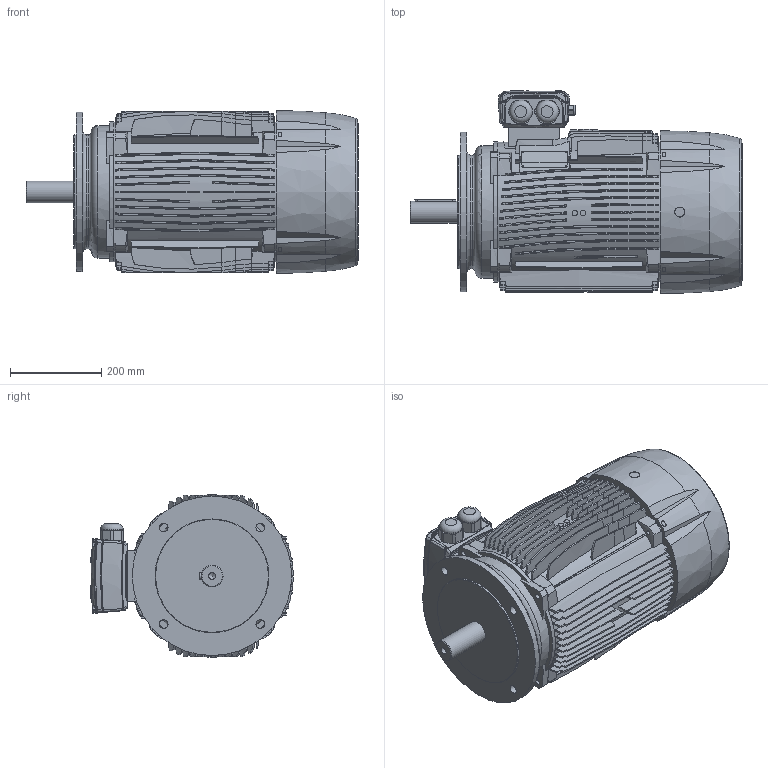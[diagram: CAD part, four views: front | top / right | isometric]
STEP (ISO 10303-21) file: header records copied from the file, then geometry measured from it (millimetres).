
FILE_DESCRIPTION((''),'2;1');
FILE_NAME('C:\Users\wilu\Desktop\carciofi_aggiornati_al_23_08_2016\Passati per Inventor\M180M.stp','2016-09-29T18:11:38',('wilu'),(''),'Autodesk Inventor 2013','Autodesk Inventor 2013','');
FILE_SCHEMA(('AUTOMOTIVE_DESIGN { 1 0 10303 214 1 1 1 1 }'));
Length unit declared in the file: millimetre
Products named in the file (6): M180M; FRA180M; B5180; TBOX180; FCV180; SH180M
Assembly tree (5 placements, depth 2):
  M180M
    FRA180M
    B5180
    TBOX180
    FCV180
    SH180M
Bounding box: 729 x 445.91 x 357.36 mm (x, y, z)
Volume: 52772070.5 mm3; surface area: 2196348.6 mm2
Topology: 19 solids, 28 shells, 2129 faces, 5530 edges, 3570 vertices
Faces by surface type: plane 767, cylinder 604, bspline 393, torus 290, cone 63, sphere 8, revolution 4
Full cylindrical faces by diameter (mm): 2.5 x7, 3.5 x8, 5 x12, 7 x2, 8.5 x8, 11.5 x4, 15 x1, 19 x4, 22 x1, 45 x1, 48 x2, 50 x2, 55 x2, 250 x2, 291 x1, 350 x1
Entity records: 95872 total; most frequent: CARTESIAN_POINT 48949, ORIENTED_EDGE 10812, DIRECTION 8044, EDGE_CURVE 5406, VERTEX_POINT 3541, AXIS2_PLACEMENT_3D 3251, EDGE_LOOP 2373, FACE_OUTER_BOUND 2125
